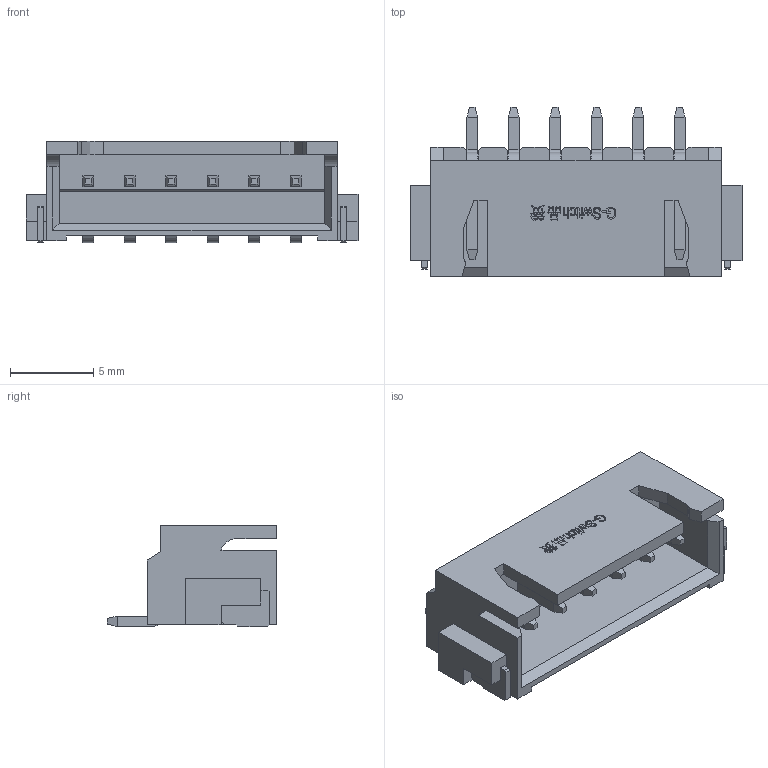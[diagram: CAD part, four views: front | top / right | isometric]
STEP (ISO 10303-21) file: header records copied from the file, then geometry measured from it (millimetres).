
FILE_DESCRIPTION (( 'STEP AP203' ), '1' );
FILE_NAME ('GT-A2501WRS-106SBT01.STEP', '2024-06-24T02:19:18', ( '' ), ( '' ), 'SwSTEP 2.0', 'SolidWorks 2020', '' );
FILE_SCHEMA (( 'CONFIG_CONTROL_DESIGN' ));
Length unit declared in the file: millimetre
Products named in the file (1): GT-A2501WRS-106SBT01
Bounding box: 20 x 10.2 x 6.1 mm (x, y, z)
Volume: 402.7 mm3; surface area: 987.7 mm2
Topology: 1 solids, 1 shells, 532 faces, 1495 edges, 980 vertices
Faces by surface type: plane 437, bspline 71, cylinder 24
Entity records: 20378 total; most frequent: CARTESIAN_POINT 7015, ORIENTED_EDGE 2990, DIRECTION 2325, EDGE_CURVE 1495, LINE 1305, VECTOR 1305, VERTEX_POINT 980, EDGE_LOOP 559
